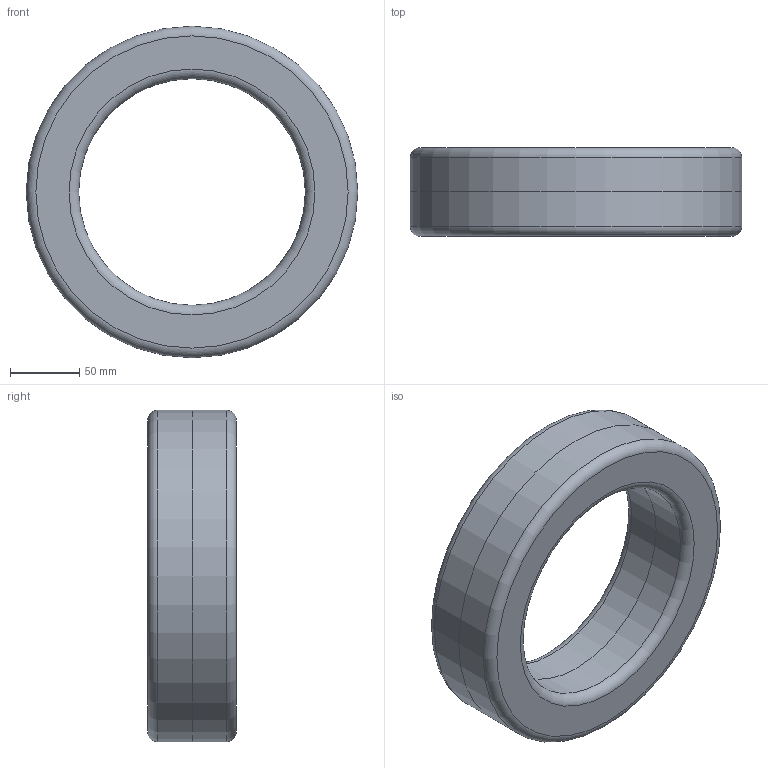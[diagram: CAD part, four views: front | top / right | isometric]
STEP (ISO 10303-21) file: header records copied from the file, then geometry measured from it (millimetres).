
FILE_DESCRIPTION(('Open CASCADE Model'),'2;1');
FILE_NAME('Open CASCADE Shape Model','2026-09-16T16:54:27',('Author'),( 'Open CASCADE'),'Open CASCADE STEP processor 7.8','Open CASCADE 7.8' ,'Unknown');
FILE_SCHEMA(('AUTOMOTIVE_DESIGN { 1 0 10303 214 1 1 1 1 }'));
Length unit declared in the file: millimetre
Products named in the file (1): Open CASCADE STEP translator 7.8 5
Bounding box: 240 x 64 x 240 mm (x, y, z)
Volume: 1516658.8 mm3; surface area: 121832.3 mm2
Topology: 1 solids, 1 shells, 10 faces, 18 edges, 10 vertices
Faces by surface type: cylinder 4, torus 4, plane 2
Full cylindrical faces by diameter (mm): 164 x2, 240 x2
Entity records: 486 total; most frequent: CARTESIAN_POINT 85, DIRECTION 80, ORIENTED_EDGE 36, PCURVE 36, DEFINITIONAL_REPRESENTATION 36, LINE 26, VECTOR 26, AXIS2_PLACEMENT_3D 25
